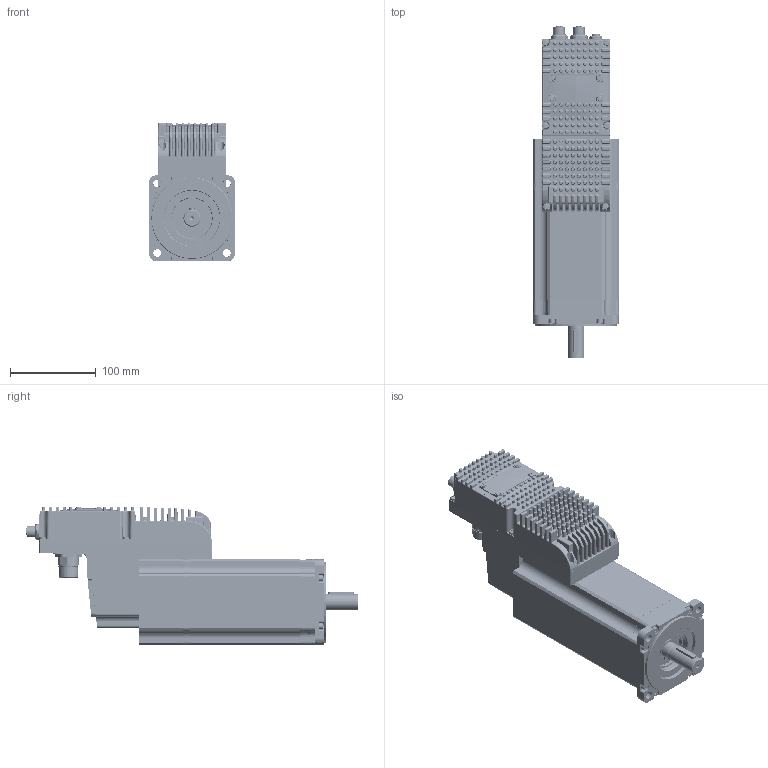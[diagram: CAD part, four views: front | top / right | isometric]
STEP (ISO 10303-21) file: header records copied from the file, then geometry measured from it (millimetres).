
FILE_DESCRIPTION(('CATIA V5 STEP Exchange'),'2;1');
FILE_NAME('F:\Meccanica\IBD\100\3D\assemblati\custom MPC\DUET HV 100 8 A5 1 E 0\MD301535.0.0\DUET_HV_100_8_A5_1_E_0.stp','2015-07-23T08:49:31+00:00',('none'),('none'),'CATIA Version 5 Release 19 SP 2 (IN-10)','CATIA V5 STEP AP214','none');
FILE_SCHEMA(('AUTOMOTIVE_DESIGN { 1 0 10303 214 1 1 1 1 }'));
Products named in the file (58): DUET HV 100 8 A5 1 E 0; MD151014.1.0; MD081003.2.0; V_VTCTX40X12A; V_VTCTX3X6(8.8); LC101004.2.2.n; JS20MNQD6; JS26FSQ7; LT709037RLF1; UKSZ8721BLI; UET1100; JTP1633-2; PC101004.1.0; DLS5977701507; DLRR; DLRV; DWFR01FR10PS; LC051027.2.0; J_7458000000; Connettore_M23_IO; J_7001919137; frutto 16+3; contatto_1mm; contatto_1.5.mm; J_7651000000; Connettore_M23_pot; J_7084943101; JAC7010941001; JAC7010942001; MD081005.6.0; LC101003.3.0; PC101003.3.0; J_4301236; J_RKMHL4S55; JS20FDT7; dado_M12_conec; dado_M8_lumberg; Dado_M23_IO; MMTC100817101022580Z4; Vite a brugola testa cil 8,8 -  M  3 x 10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
Assembly tree (116 placements, depth 4):
  DUET HV 100 8 A5 1 E 0
    MD151014.1.0
    MD081003.2.0
    V_VTCTX40X12A  x6
    V_VTCTX3X6(8.8)  x4
    LC101004.2.2.n
      JS20MNQD6
      JS26FSQ7
      LT709037RLF1  x2
      UKSZ8721BLI  x2
      UET1100
      JTP1633-2  x2
      PC101004.1.0
      DLS5977701507  x6
      DLRR
      DLRV  x3
      DWFR01FR10PS  x3
    LC051027.2.0
      J_7458000000
        Connettore_M23_IO
      J_7001919137
        frutto 16+3
        contatto_1mm  x16
        contatto_1.5.mm  x3
      J_7651000000
        Connettore_M23_pot
      J_7084943101
      JAC7010941001  x4
      JAC7010942001  x3
    MD081005.6.0
    LC101003.3.0
      PC101003.3.0
      J_4301236  x2
      J_RKMHL4S55
      JS20FDT7
    dado_M12_conec  x2
    dado_M8_lumberg
    Dado_M23_IO  x2
    MMTC100817101022580Z4
      Vite a brugola testa cil 8,8 -  M  3 x 10  x2
      Vite a brugola testa cil 8,8 -  M  3 x 50  x2
      Vite a brugola testa cil 8,8 -  M  3 x 60  x2
      KI 100 8Nm_FR_pred kit azionamento_enc std_OIH48_vuoto
        Vite a brugola testa cil 8,8 -  M  4 x 35  x8
        A-Ela 20 P
        CUSC_20_52_15_6304_ZZ_3
        LI-PIA   6x6 x 30
        N33454
        N33454_1
        DEB M  3  x2
        N09462
        N09449
        N09449_1
        Vite a brugola testa cil 8,8 -  M  4 x 12  x4
        N27435
        N25420_8_FRE
        N01Q04_9_FR
      MD081001.4.0
Bounding box: 100 x 387.5 x 161.2 mm (x, y, z)
Volume: 1232583.9 mm3; surface area: 553640 mm2
Topology: 117 solids, 120 shells, 11276 faces, 30132 edges, 19380 vertices
Faces by surface type: plane 4447, cylinder 3621, cone 1020, torus 967, bspline 717, sphere 377, extrusion 123, revolution 4
Entity records: 359362 total; most frequent: CARTESIAN_POINT 120565, ORIENTED_EDGE 47100, DIRECTION 32040, EDGE_CURVE 23550, VERTEX_POINT 15299, AXIS2_PLACEMENT_3D 14850, VECTOR 10630, LINE 10507
